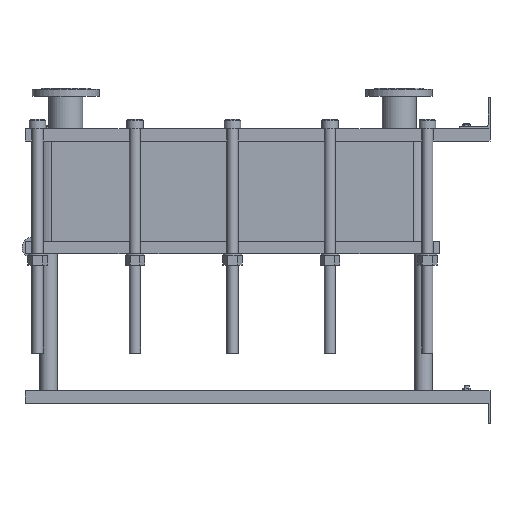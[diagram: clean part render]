
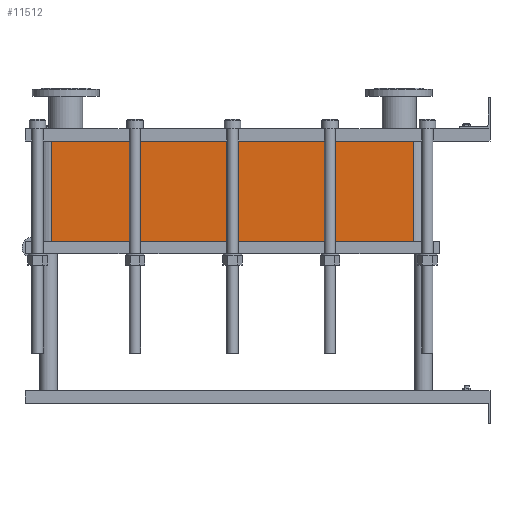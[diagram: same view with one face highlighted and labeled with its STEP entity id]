
A CAD part, left-side view. The second image highlights one B-rep face of the part: STEP entity #11512.
In plain terms, the highlighted planar face has unit normal (-1, 0, 0).
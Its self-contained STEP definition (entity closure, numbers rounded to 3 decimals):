
#1129=LINE('',#23232,#2102);
#1130=LINE('',#23236,#2103);
#1131=LINE('',#23238,#2104);
#1132=LINE('',#23239,#2105);
#2102=VECTOR('',#15887,10.);
#2103=VECTOR('',#15892,10.);
#2104=VECTOR('',#15893,10.);
#2105=VECTOR('',#15894,10.);
#3267=FACE_OUTER_BOUND('',#4093,.T.);
#4093=EDGE_LOOP('',(#10103,#10104,#10105,#10106));
#5642=VERTEX_POINT('',#23229);
#5643=VERTEX_POINT('',#23231);
#5644=VERTEX_POINT('',#23235);
#5645=VERTEX_POINT('',#23237);
#7159=EDGE_CURVE('',#5643,#5642,#1129,.T.);
#7161=EDGE_CURVE('',#5642,#5644,#1130,.T.);
#7162=EDGE_CURVE('',#5645,#5644,#1131,.T.);
#7163=EDGE_CURVE('',#5645,#5643,#1132,.T.);
#10103=ORIENTED_EDGE('',*,*,#7161,.T.);
#10104=ORIENTED_EDGE('',*,*,#7162,.F.);
#10105=ORIENTED_EDGE('',*,*,#7163,.T.);
#10106=ORIENTED_EDGE('',*,*,#7159,.T.);
#10857=PLANE('',#12751);
#11512=ADVANCED_FACE('',(#3267),#10857,.T.);
#12751=AXIS2_PLACEMENT_3D('',#23234,#15890,#15891);
#15887=DIRECTION('',(0.,0.,-1.));
#15890=DIRECTION('center_axis',(-1.,0.,0.));
#15891=DIRECTION('ref_axis',(0.,1.,0.));
#15892=DIRECTION('',(0.,-1.,0.));
#15893=DIRECTION('',(0.,0.,-1.));
#15894=DIRECTION('',(0.,1.,0.));
#23229=CARTESIAN_POINT('',(-200.,1414.,-324.3));
#23231=CARTESIAN_POINT('',(-200.,1414.,0.));
#23232=CARTESIAN_POINT('',(-200.,1414.,0.));
#23234=CARTESIAN_POINT('Origin',(-200.,248.,0.));
#23235=CARTESIAN_POINT('',(-200.,248.,-324.3));
#23236=CARTESIAN_POINT('',(-200.,539.5,-324.3));
#23237=CARTESIAN_POINT('',(-200.,248.,0.));
#23238=CARTESIAN_POINT('',(-200.,248.,0.));
#23239=CARTESIAN_POINT('',(-200.,248.,0.));
